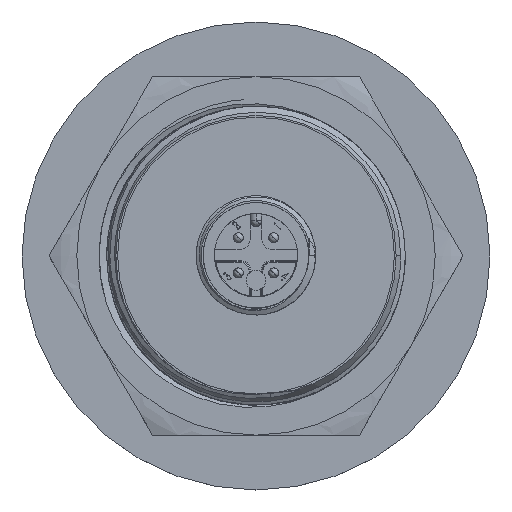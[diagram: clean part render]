
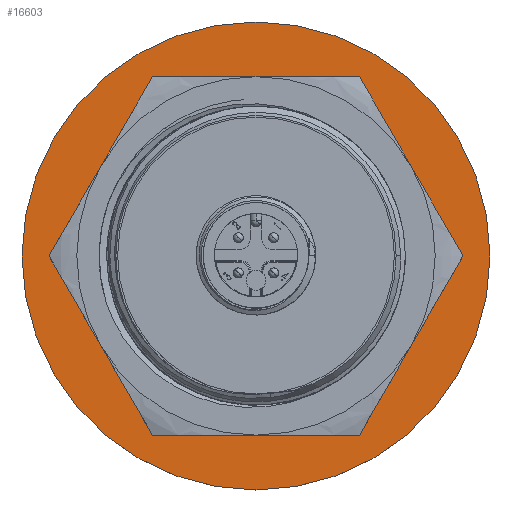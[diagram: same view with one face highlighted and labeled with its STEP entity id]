
A CAD part, top view. The second image highlights one B-rep face of the part: STEP entity #16603.
In plain terms, the highlighted planar face has unit normal (0, 0, 1).
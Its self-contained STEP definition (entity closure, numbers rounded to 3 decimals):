
#189 = AXIS2_PLACEMENT_3D ( 'NONE', #15814, #14703, #14218 ) ;
#1084 = VERTEX_POINT ( 'NONE', #15495 ) ;
#6007 = VERTEX_POINT ( 'NONE', #9085 ) ;
#6605 = AXIS2_PLACEMENT_3D ( 'NONE', #12507, #29557, #10754 ) ;
#6968 = AXIS2_PLACEMENT_3D ( 'NONE', #14083, #19125, #12030 ) ;
#6994 = DIRECTION ( 'NONE',  ( 0., 0., 1. ) ) ;
#9085 = CARTESIAN_POINT ( 'NONE',  ( 17.5, 0., 1. ) ) ;
#9361 = FACE_BOUND ( 'NONE', #18654, .T. ) ;
#10754 = DIRECTION ( 'NONE',  ( 1., 0., 0. ) ) ;
#11424 = CARTESIAN_POINT ( 'NONE',  ( -17.5, 0., 1. ) ) ;
#11777 = CIRCLE ( 'NONE', #29425, 17.5 ) ;
#12027 = ORIENTED_EDGE ( 'NONE', *, *, #24465, .F. ) ;
#12030 = DIRECTION ( 'NONE',  ( 1., 0., 0. ) ) ;
#12507 = CARTESIAN_POINT ( 'NONE',  ( 0., 0., 1. ) ) ;
#13388 = AXIS2_PLACEMENT_3D ( 'NONE', #16788, #6994, #24026 ) ;
#14083 = CARTESIAN_POINT ( 'NONE',  ( 0., 0., 1. ) ) ;
#14218 = DIRECTION ( 'NONE',  ( 1., 0., 0. ) ) ;
#14227 = ORIENTED_EDGE ( 'NONE', *, *, #27385, .T. ) ;
#14299 = CIRCLE ( 'NONE', #189, 23.5 ) ;
#14703 = DIRECTION ( 'NONE',  ( 0., 0., 1. ) ) ;
#15495 = CARTESIAN_POINT ( 'NONE',  ( -23.5, 0., 1. ) ) ;
#15814 = CARTESIAN_POINT ( 'NONE',  ( 0., 0., 1. ) ) ;
#16311 = CARTESIAN_POINT ( 'NONE',  ( 0., 0., 1. ) ) ;
#16554 = CIRCLE ( 'NONE', #6968, 17.5 ) ;
#16603 = ADVANCED_FACE ( 'NONE', ( #9361, #18982 ), #28614, .T. ) ;
#16698 = CIRCLE ( 'NONE', #6605, 23.5 ) ;
#16788 = CARTESIAN_POINT ( 'NONE',  ( 0., 0., 1. ) ) ;
#17429 = EDGE_CURVE ( 'NONE', #1084, #30503, #16698, .T. ) ;
#18383 = ORIENTED_EDGE ( 'NONE', *, *, #29728, .F. ) ;
#18654 = EDGE_LOOP ( 'NONE', ( #12027, #18383 ) ) ;
#18982 = FACE_OUTER_BOUND ( 'NONE', #22620, .T. ) ;
#19125 = DIRECTION ( 'NONE',  ( 0., 0., 1. ) ) ;
#19965 = VERTEX_POINT ( 'NONE', #11424 ) ;
#21511 = DIRECTION ( 'NONE',  ( 1., 0., 0. ) ) ;
#22226 = ORIENTED_EDGE ( 'NONE', *, *, #17429, .T. ) ;
#22620 = EDGE_LOOP ( 'NONE', ( #22226, #14227 ) ) ;
#23155 = CARTESIAN_POINT ( 'NONE',  ( 23.5, 0., 1. ) ) ;
#24026 = DIRECTION ( 'NONE',  ( 1., 0., 0. ) ) ;
#24465 = EDGE_CURVE ( 'NONE', #19965, #6007, #16554, .T. ) ;
#26074 = DIRECTION ( 'NONE',  ( 0., 0., 1. ) ) ;
#27385 = EDGE_CURVE ( 'NONE', #30503, #1084, #14299, .T. ) ;
#28614 = PLANE ( 'NONE',  #13388 ) ;
#29425 = AXIS2_PLACEMENT_3D ( 'NONE', #16311, #26074, #21511 ) ;
#29557 = DIRECTION ( 'NONE',  ( 0., 0., 1. ) ) ;
#29728 = EDGE_CURVE ( 'NONE', #6007, #19965, #11777, .T. ) ;
#30503 = VERTEX_POINT ( 'NONE', #23155 ) ;
